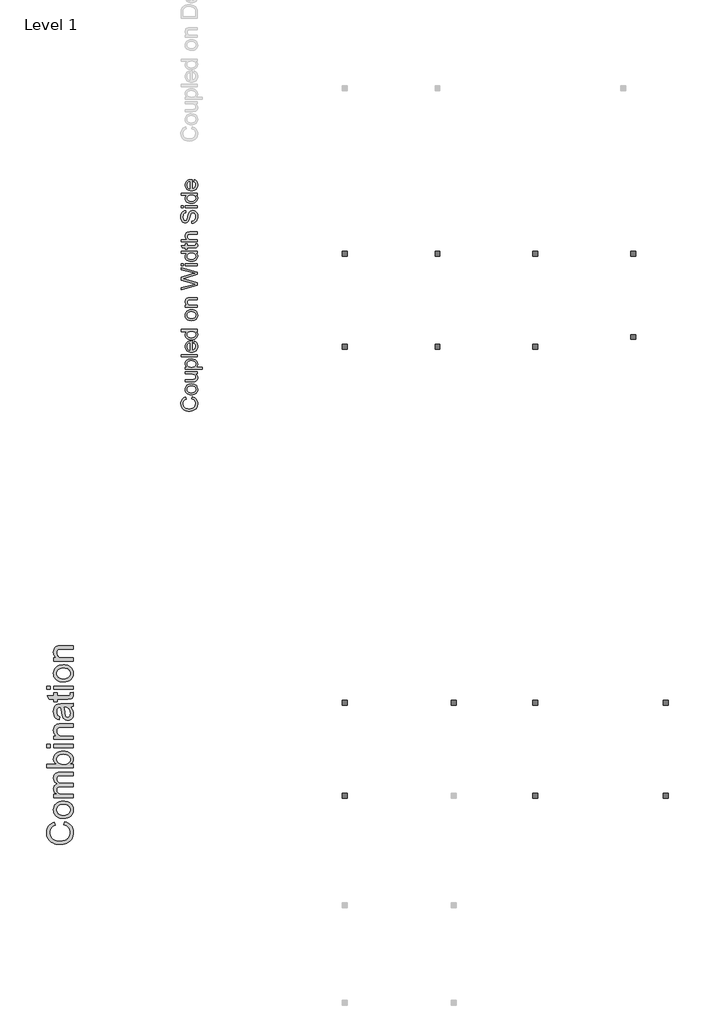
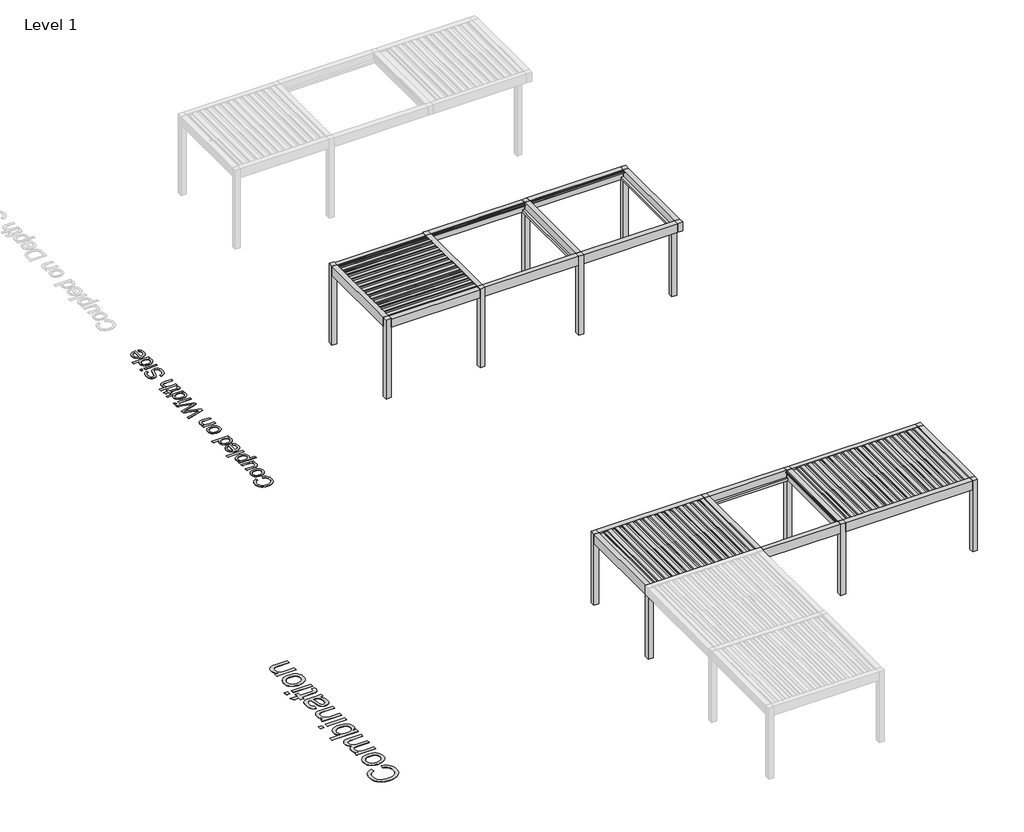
# One storey, part 43 of 80: 4 proxies.
"""IFC4 building model written with IfcOpenShell, lengths in millimetres."""

from ifc_helpers import new_model, si_unit, origin, origin_with_axes, place, context, project, spatial, polyline, outline, extrude, transform, mapped, element, save
from components import generic_models_59356690, generic_models_0d35a46a

model = new_model("IFC4")

# Units and contexts
model_context = context("Model", 3, world=origin())
ifc_project = project(units=[si_unit("LENGTHUNIT", "METRE", prefix="MILLI")], contexts=[model_context])

# Site, building, storey
site = spatial("IfcSite", under=ifc_project)
building = spatial("IfcBuilding", under=site)
storey = spatial("IfcBuildingStorey", under=building, Name="Level 1", Elevation=0.0)

# Proxies
placement = place(None, origin())
generic_models_shape = generic_models_59356690(model_context)
element("IfcBuildingElementProxy", 1, Name="Renson_Amani_Patio_Cover : Renson_Amani_Patio_Cover", ObjectType="Renson_Amani_Patio_Cover : Renson_Amani_Patio_Cover", at=placement, inside=storey, context=model_context, shape_type="MappedRepresentation", body=[
    mapped(generic_models_shape, transform((48903.165057, 33328.5861401, 0.0), x_axis=(1.0, 0.0, 0.0), y_axis=(0.0, 1.0, 0.0), z_axis=(0.0, 0.0, 1.0))),
])
generic_models_2_shape = generic_models_0d35a46a(model_context)
element("IfcBuildingElementProxy", 2, Name="Renson_Amani_Patio_Cover : Renson_Amani_Patio_Cover", ObjectType="Renson_Amani_Patio_Cover : Renson_Amani_Patio_Cover", at=placement, inside=storey, context=model_context, shape_type="MappedRepresentation", body=[
    mapped(generic_models_2_shape, transform((48653.165057, 47104.0136657, 0.0), x_axis=(1.0, 0.0, 0.0), y_axis=(0.0, 1.0, 0.0), z_axis=(0.0, 0.0, 1.0))),
])
element("IfcBuildingElementProxy", 3, Name="500mm Arial", ObjectType="500mm Arial", at=placement, inside=storey, context=model_context, shape_type="SweptSolid", body=[
    extrude(outline(polyline([(42534.4472638, 44082.6564057), (42550.6340716, 44145.4415995), (42589.6793805, 44133.017918), (42623.7966034, 44116.4708924), (42652.9857405, 44095.8005228), (42677.2467916, 44071.0068092), (42696.3191738, 44042.6492387), (42709.942304, 44011.2872986), (42718.116182, 43976.9209889), (42720.8408081, 43939.5503096), (42718.779136, 43901.2637573), (42712.59412, 43866.7250029), (42702.2857599, 43835.9340464), (42687.8540558, 43808.8908876), (42669.5136055, 43785.2238126), (42647.4790069, 43764.5611072), (42621.7502598, 43746.9027714), (42592.3273644, 43732.2488053), (42560.4825792, 43720.7409966), (42527.4881628, 43712.5211333), (42493.3441151, 43707.5892153), (42458.0504362, 43705.9452426), (42420.1815833, 43707.8038131), (42384.8112623, 43713.3795246), (42351.9394732, 43722.6723771), (42321.566216, 43735.6823706), (42294.1934963, 43752.1182651), (42270.3233197, 43771.6888208), (42249.9556863, 43794.3940377), (42233.0905961, 43820.2339158), (42219.8660048, 43848.3309032), (42210.4198682, 43877.807448), (42204.7521862, 43908.6635504), (42202.8629589, 43940.8992102), (42205.3078413, 43976.8098579), (42212.6424886, 44009.7391286), (42224.8669007, 44039.6870222), (42241.9810777, 44066.6535389), (42263.5328312, 44090.1941545), (42289.0699731, 44109.8643449), (42318.5925032, 44125.6641102), (42352.1004216, 44137.5934503), (42367.060956, 44074.8082565), (42342.3707092, 44064.9214278), (42321.2749761, 44053.0419051), (42303.7737566, 44039.1696882), (42289.8670507, 44023.3047771), (42279.2712828, 44005.3552014), (42271.7028772, 43985.2289906), (42267.1618338, 43962.9261447), (42265.6481527, 43938.4466636), (42267.3266143, 43910.2806983), (42272.3619991, 43884.5212945), (42280.7543071, 43861.168452), (42292.5035383, 43840.2221709), (42307.0808624, 43821.9468663), (42323.9574489, 43806.6069536), (42343.1332979, 43794.2024325), (42364.6084094, 43784.7333033), (42410.563002, 43772.7311532), (42457.9278088, 43768.7304365), (42515.9305368, 43773.4669172), (42566.0851154, 43787.6763592), (42587.7403358, 43798.4675644), (42606.4754928, 43811.8952572), (42622.2905865, 43827.9594377), (42635.1856169, 43846.6601058), (42652.3381149, 43888.3380702), (42658.0556142, 43933.2963156), (42656.1089053, 43960.5923933), (42650.2687787, 43985.7041715), (42640.5352342, 44008.6316505), (42626.908272, 44029.3748301), (42609.4492056, 44047.443201), (42588.2193488, 44062.3462539), (42563.2187015, 44074.0839888), (42534.4472638, 44082.6564057)])), origin_with_axes(), (0.0, 0.0, 1.0), 5.0),
    extrude(outline(polyline([(42528.5611519, 44208.2267934), (42480.790142, 44211.6220376), (42439.6256796, 44221.8077704), (42405.0677647, 44238.7839916), (42377.1163972, 44262.5507013), (42359.2511278, 44286.4783594), (42346.4902211, 44312.889221), (42338.8336771, 44341.783286), (42336.2814958, 44373.1605545), (42339.3893322, 44407.7989437), (42348.7128415, 44439.1187306), (42364.2520237, 44467.1199154), (42386.0068788, 44491.802498), (42413.2416427, 44511.9478693), (42445.2205516, 44526.3374203), (42481.9436053, 44534.9711509), (42523.410804, 44537.8490611), (42586.8397913, 44532.7600268), (42612.8751067, 44526.398734), (42635.1243032, 44517.492924), (42654.3423053, 44506.1537279), (42671.2840376, 44492.4922767), (42685.9495001, 44476.5085705), (42698.3386927, 44458.2026091), (42715.2152792, 44417.4750065), (42720.8408081, 44373.1605545), (42717.7444679, 44338.0163277), (42708.4554476, 44306.4053008), (42692.9737469, 44278.327474), (42671.299366, 44253.7828471), (42643.8001869, 44233.8520736), (42610.8440915, 44219.6158068), (42572.4310798, 44211.0740467), (42528.5611519, 44208.2267934)]), holes=[polyline([(42528.4385246, 44271.0119872), (42558.892256, 44272.8284046), (42585.2609644, 44278.2776566), (42607.5446499, 44287.3597434), (42625.7433123, 44300.0746648), (42639.8799444, 44315.541037), (42649.9775387, 44332.8774761), (42656.0360954, 44352.0839819), (42658.0556142, 44373.1605545), (42656.024599, 44394.1298283), (42649.9315535, 44413.259692), (42639.7764776, 44430.5501458), (42625.5593713, 44446.0011896), (42607.1806, 44458.716111), (42584.5405289, 44467.7981978), (42557.639158, 44473.2474499), (42526.4764873, 44475.0638672), (42496.9884461, 44473.2359535), (42471.3095164, 44467.7522126), (42449.4396982, 44458.6126442), (42431.3789915, 44445.8172486), (42417.2423594, 44430.3087232), (42407.1447651, 44413.0297658), (42401.0862085, 44393.9803762), (42399.0666896, 44373.1605545), (42401.0785443, 44352.0839819), (42407.1141083, 44332.8774761), (42417.1733816, 44315.541037), (42431.2563642, 44300.0746648), (42449.4013772, 44287.3597434), (42471.6467416, 44278.2776566), (42497.9924574, 44272.8284046), (42528.4385246, 44271.0119872)])]), origin_with_axes(), (0.0, 0.0, 1.0), 5.0),
    extrude(outline(polyline([(42712.9926588, 44843.926881), (42649.5943283, 44843.926881), (42680.7646632, 44821.2101678), (42703.0291881, 44794.753321), (42716.3879031, 44764.5563406), (42720.8408081, 44730.6192265), (42717.7138111, 44700.0390357), (42708.3328202, 44671.5741663), (42694.2306771, 44647.6924934), (42676.9402233, 44630.8618922), (42655.9402927, 44619.5341924), (42630.7097192, 44612.1612241), (42572.3391093, 44608.4824041), (42344.129645, 44608.4824041), (42344.129645, 44671.267598), (42542.7859224, 44671.267598), (42606.7973896, 44675.0690453), (42628.1498737, 44684.2201099), (42644.3826667, 44699.9010799), (42654.6373773, 44721.0696231), (42658.0556142, 44746.683407), (42654.5607353, 44773.7687189), (42644.0760984, 44799.1065913), (42627.5673939, 44819.9992229), (42606.0003119, 44833.7488125), (42576.4624534, 44841.3823639), (42536.0414192, 44843.926881), (42344.129645, 44843.926881), (42344.129645, 44906.7120749), (42712.9926588, 44906.7120749), (42712.9926588, 44843.926881)])), origin_with_axes(), (0.0, 0.0, 1.0), 5.0),
    extrude(outline(polyline([(42854.259345, 44993.0417164), (42344.129645, 44993.0417164), (42344.129645, 45055.8269103), (42405.6885655, 45055.8269103), (42375.3229725, 45076.3056747), (42353.6332632, 45099.2369857), (42340.6194376, 45125.969744), (42336.2814958, 45157.8528503), (42337.799009, 45179.7494932), (42342.3515487, 45200.3125639), (42349.9391148, 45219.5420623), (42360.5617075, 45237.4379885), (42373.943415, 45253.6094679), (42389.8083261, 45267.6656258), (42428.9877586, 45289.4319772), (42475.2489195, 45302.5837585), (42525.7407233, 45306.9676856), (42579.4361662, 45302.0166071), (42627.460095, 45287.1633716), (42648.735937, 45276.1422401), (42667.3752914, 45262.8831599), (42683.3781582, 45247.3861308), (42696.7445374, 45229.651153), (42714.8167404, 45190.9469014), (42720.8408081, 45150.2499557), (42716.8094345, 45121.3865475), (42704.7153139, 45095.6194794), (42686.4591699, 45073.5618881), (42663.9417261, 45055.8269103), (42854.259345, 45055.8269103), (42854.259345, 44993.0417164)]), holes=[polyline([(42531.5042079, 45055.8269103), (42561.762502, 45057.5245324), (42587.7901531, 45062.6173988), (42609.5871614, 45071.1055094), (42627.1535266, 45082.9888642), (42640.6731899, 45097.2941089), (42650.3300923, 45113.0478889), (42656.1242337, 45130.2502043), (42658.0556142, 45148.901055), (42656.0552559, 45167.8201531), (42650.0541808, 45185.336701), (42640.0523891, 45201.4506988), (42626.0498806, 45216.1621465), (42607.8473861, 45228.4210476), (42585.245636, 45237.1774055), (42558.2446304, 45242.4312202), (42526.8443693, 45244.1824918), (42496.8466583, 45242.4733734), (42470.8649923, 45237.346018), (42448.8993715, 45228.8004259), (42430.9497959, 45216.8365968), (42417.0009369, 45202.4968632), (42407.0374662, 45186.8235574), (42401.0593838, 45169.8166793), (42399.0666896, 45151.476229), (42401.1858432, 45133.1932603), (42407.5433039, 45115.9909449), (42418.1390718, 45099.8692829), (42432.9731468, 45084.8282742), (42451.8462596, 45072.1401775), (42474.5591407, 45063.0772512), (42501.1117901, 45057.6394955), (42531.5042079, 45055.8269103)])]), origin_with_axes(), (0.0, 0.0, 1.0), 5.0),
    extrude(outline(polyline([(42712.9926588, 45377.6010287), (42210.7111081, 45377.6010287), (42210.7111081, 45440.3862226), (42712.9926588, 45440.3862226), (42712.9926588, 45377.6010287)])), origin_with_axes(), (0.0, 0.0, 1.0), 5.0),
    extrude(outline(polyline([(42603.1185696, 45792.8171739), (42610.9667188, 45854.3760945), (42635.6224767, 45844.937622), (42657.3505071, 45832.1958758), (42676.1508099, 45816.1508559), (42692.0233851, 45796.8025622), (42704.6310077, 45774.3502642), (42713.6364523, 45748.9932313), (42719.0397191, 45720.7314634), (42720.8408081, 45689.5649606), (42717.7329716, 45650.6077902), (42708.4094623, 45615.8965911), (42692.8702801, 45585.4313634), (42671.115425, 45559.212107), (42643.7503696, 45538.1278701), (42611.3805861, 45523.067701), (42574.0060746, 45514.0315995), (42531.6268352, 45511.0195656), (42487.8105567, 45514.0622563), (42449.1906115, 45523.1903283), (42415.7669994, 45538.4037816), (42387.5397204, 45559.7026163), (42365.1142471, 45585.8528948), (42349.0960519, 45615.6206796), (42339.4851348, 45649.0059706), (42336.2814958, 45686.008768), (42339.4774706, 45721.819781), (42349.0653951, 45754.2048929), (42365.0452693, 45783.1641037), (42387.4170931, 45808.6974134), (42415.5830584, 45829.5402277), (42448.9453568, 45844.4279522), (42487.5039884, 45853.3605869), (42531.2589532, 45856.3381318), (42548.181525, 45855.9702498), (42548.181525, 45573.8047595), (42573.2358217, 45577.4414263), (42595.1784499, 45584.6726067), (42614.0094095, 45595.4983009), (42629.7287006, 45609.9185087), (42642.1217253, 45627.1361525), (42650.9738858, 45646.3541546), (42656.2851821, 45667.5725151), (42658.0556142, 45690.7912339), (42654.7753331, 45724.2071818), (42644.9344897, 45752.3501545), (42627.9199474, 45775.2201518), (42603.1185696, 45792.8171739)]), holes=[polyline([(42485.3963312, 45573.8047595), (42485.3963312, 45793.5529379), (42452.2256379, 45785.0609952), (42428.4972492, 45768.4143349), (42415.6213794, 45751.2924937), (42406.4243295, 45731.8100764), (42400.9060996, 45709.9670829), (42399.0666896, 45685.7635133), (42404.9374731, 45643.4417555), (42412.2759525, 45625.0284952), (42422.5498236, 45608.4469807), (42435.2839056, 45594.5326106), (42450.0030175, 45584.1207838), (42466.7071594, 45577.2115), (42485.3963312, 45573.8047595)])]), origin_with_axes(), (0.0, 0.0, 1.0), 5.0),
    extrude(outline(polyline([(42712.9926588, 46146.7196533), (42653.7636576, 46146.7196533), (42683.1099109, 46127.9346789), (42704.0715205, 46105.1796447), (42716.6484862, 46078.4545506), (42720.8408081, 46047.7593966), (42714.7707551, 46007.1697498), (42696.5605964, 45970.0136683), (42667.4825903, 45938.5597577), (42628.8089956, 45915.0766237), (42582.1033106, 45900.4533144), (42528.9290339, 45895.5788779), (42476.4138791, 45900.0701039), (42428.9877586, 45913.543782), (42407.8575365, 45923.6452085), (42389.3484736, 45935.9845837), (42373.4605699, 45950.5619078), (42360.1938255, 45967.3771806), (42342.2595782, 46005.3456682), (42336.2814958, 46047.5141419), (42340.558124, 46078.2322885), (42353.3880085, 46105.3942425), (42373.0543669, 46128.417524), (42397.8404163, 46146.7196533), (42210.7111081, 46146.7196533), (42210.7111081, 46209.5048471), (42712.9926588, 46209.5048471), (42712.9926588, 46146.7196533)]), holes=[polyline([(42528.6837793, 45958.3640718), (42559.1298465, 45960.1345039), (42585.4755623, 45965.4458002), (42607.7209267, 45974.2979607), (42625.8659396, 45986.6909854), (42639.9489223, 46001.4905715), (42650.0081956, 46017.5624162), (42656.0437596, 46034.9065194), (42658.0556142, 46053.5228812), (42656.1357301, 46072.2273814), (42650.3760776, 46089.4680178), (42640.7766568, 46105.2447904), (42627.3374676, 46119.5576993), (42609.9512112, 46131.4410542), (42588.5105887, 46139.9291648), (42563.0156, 46145.0220312), (42533.4662452, 46146.7196533), (42501.069637, 46144.9913743), (42473.2868821, 46139.8065375), (42450.1179807, 46131.1651427), (42431.5629325, 46119.06719), (42417.3458263, 46104.4400486), (42407.1907503, 46088.2110876), (42401.0977048, 46070.3803072), (42399.0666896, 46050.9477072), (42401.0172306, 46031.9634634), (42406.8688536, 46014.6193602), (42416.6215586, 45998.9153975), (42430.2753455, 45984.8515754), (42448.1291186, 45973.2632926), (42470.4817819, 45964.9859477), (42497.3333355, 45960.0195407), (42528.6837793, 45958.3640718)])]), origin_with_axes(), (0.0, 0.0, 1.0), 5.0),
    extrude(outline(polyline([(42528.5611519, 46484.1900702), (42480.790142, 46487.5853144), (42439.6256796, 46497.7710472), (42405.0677647, 46514.7472684), (42377.1163972, 46538.5139782), (42359.2511278, 46562.4416363), (42346.4902211, 46588.8524978), (42338.8336771, 46617.7465629), (42336.2814958, 46649.1238314), (42339.3893322, 46683.7622205), (42348.7128415, 46715.0820074), (42364.2520237, 46743.0831922), (42386.0068788, 46767.7657748), (42413.2416427, 46787.9111462), (42445.2205516, 46802.3006971), (42481.9436053, 46810.9344277), (42523.410804, 46813.8123379), (42586.8397913, 46808.7233036), (42612.8751067, 46802.3620108), (42635.1243032, 46793.4562008), (42654.3423053, 46782.1170047), (42671.2840376, 46768.4555536), (42685.9495001, 46752.4718473), (42698.3386927, 46734.1658859), (42715.2152792, 46693.4382834), (42720.8408081, 46649.1238314), (42717.7444679, 46613.9796045), (42708.4554476, 46582.3685777), (42692.9737469, 46554.2907508), (42671.299366, 46529.7461239), (42643.8001869, 46509.8153504), (42610.8440915, 46495.5790836), (42572.4310798, 46487.0373236), (42528.5611519, 46484.1900702)]), holes=[polyline([(42528.4385246, 46546.975264), (42558.892256, 46548.7916814), (42585.2609644, 46554.2409334), (42607.5446499, 46563.3230202), (42625.7433123, 46576.0379417), (42639.8799444, 46591.5043139), (42649.9775387, 46608.8407529), (42656.0360954, 46628.0472587), (42658.0556142, 46649.1238314), (42656.024599, 46670.0931051), (42649.9315535, 46689.2229688), (42639.7764776, 46706.5134226), (42625.5593713, 46721.9644664), (42607.1806, 46734.6793879), (42584.5405289, 46743.7614746), (42557.639158, 46749.2107267), (42526.4764873, 46751.027144), (42496.9884461, 46749.1992304), (42471.3095164, 46743.7154894), (42449.4396982, 46734.5759211), (42431.3789915, 46721.7805254), (42417.2423594, 46706.2720001), (42407.1447651, 46688.9930426), (42401.0862085, 46669.943653), (42399.0666896, 46649.1238314), (42401.0785443, 46628.0472587), (42407.1141083, 46608.8407529), (42417.1733816, 46591.5043139), (42431.2563642, 46576.0379417), (42449.4013772, 46563.3230202), (42471.6467416, 46554.2409334), (42497.9924574, 46548.7916814), (42528.4385246, 46546.975264)])]), origin_with_axes(), (0.0, 0.0, 1.0), 5.0),
    extrude(outline(polyline([(42712.9926588, 46884.445681), (42344.129645, 46884.445681), (42344.129645, 46947.2308748), (42395.6331243, 46947.2308748), (42369.6667868, 46969.0432114), (42351.1194029, 46995.2394752), (42339.9909726, 47025.819666), (42336.2814958, 47060.783784), (42339.270537, 47091.7318568), (42348.2376606, 47120.0740989), (42362.0638923, 47143.7105171), (42379.6302575, 47160.5411183), (42400.8907712, 47171.9607886), (42425.7994479, 47179.3644138), (42486.4999771, 47182.6753517), (42712.9926588, 47182.6753517), (42712.9926588, 47119.8901579), (42494.961263, 47119.8901579), (42462.495677, 47118.0814047), (42439.4110818, 47112.6551453), (42422.8717204, 47102.6456893), (42410.0418358, 47087.0873466), (42401.8104762, 47067.1450768), (42399.0666896, 47043.9838395), (42400.6071955, 47024.9191215), (42405.228713, 47007.2109684), (42412.9312423, 46990.8593802), (42423.7147833, 46975.8643568), (42438.8056093, 46963.3372084), (42459.4299937, 46954.3892453), (42485.5879364, 46949.0204674), (42517.2794374, 46947.2308748), (42712.9926588, 46947.2308748), (42712.9926588, 46884.445681)])), origin_with_axes(), (0.0, 0.0, 1.0), 5.0),
    extrude(outline(polyline([(42712.9926588, 47562.9427074), (42210.7111081, 47425.9679779), (42210.7111081, 47490.715209), (42540.8238851, 47570.17772), (42642.7271978, 47594.7031863), (42552.5961089, 47620.9454353), (42210.7111081, 47720.5188287), (42210.7111081, 47813.8382281), (42458.5409455, 47886.1883538), (42550.5114443, 47917.1824119), (42642.7271978, 47940.0217524), (42543.7669411, 47963.8114548), (42210.7111081, 48044.0097297), (42210.7111081, 48108.7569609), (42712.9926588, 47971.659604), (42712.9926588, 47904.5824536), (42325.4902906, 47784.1624138), (42271.4116373, 47767.3624694), (42336.5267504, 47748.4778603), (42712.9926588, 47638.7263984), (42712.9926588, 47562.9427074)])), origin_with_axes(), (0.0, 0.0, 1.0), 5.0),
    extrude(outline(polyline([(42712.9926588, 48163.6940055), (42344.129645, 48163.6940055), (42344.129645, 48226.4791994), (42712.9926588, 48226.4791994), (42712.9926588, 48163.6940055)])), origin_with_axes(), (0.0, 0.0, 1.0), 5.0),
    extrude(outline(polyline([(42273.4963019, 48163.6940055), (42210.7111081, 48163.6940055), (42210.7111081, 48226.4791994), (42273.4963019, 48226.4791994), (42273.4963019, 48163.6940055)])), origin_with_axes(), (0.0, 0.0, 1.0), 5.0),
    extrude(outline(polyline([(42712.9926588, 48548.2533178), (42653.7636576, 48548.2533178), (42683.1099109, 48529.4683434), (42704.0715205, 48506.7133092), (42716.6484862, 48479.9882151), (42720.8408081, 48449.2930611), (42714.7707551, 48408.7034143), (42696.5605964, 48371.5473328), (42667.4825903, 48340.0934222), (42628.8089956, 48316.6102882), (42582.1033106, 48301.9869789), (42528.9290339, 48297.1125424), (42476.4138791, 48301.6037685), (42428.9877586, 48315.0774465), (42407.8575365, 48325.178873), (42389.3484736, 48337.5182482), (42373.4605699, 48352.0955723), (42360.1938255, 48368.9108452), (42342.2595782, 48406.8793327), (42336.2814958, 48449.0478064), (42340.558124, 48479.765953), (42353.3880085, 48506.927907), (42373.0543669, 48529.9511885), (42397.8404163, 48548.2533178), (42210.7111081, 48548.2533178), (42210.7111081, 48611.0385116), (42712.9926588, 48611.0385116), (42712.9926588, 48548.2533178)]), holes=[polyline([(42528.6837793, 48359.8977363), (42559.1298465, 48361.6681684), (42585.4755623, 48366.9794647), (42607.7209267, 48375.8316252), (42625.8659396, 48388.2246499), (42639.9489223, 48403.024236), (42650.0081956, 48419.0960807), (42656.0437596, 48436.4401839), (42658.0556142, 48455.0565457), (42656.1357301, 48473.7610459), (42650.3760776, 48491.0016823), (42640.7766568, 48506.778455), (42627.3374676, 48521.0913638), (42609.9512112, 48532.9747187), (42588.5105887, 48541.4628293), (42563.0156, 48546.5556957), (42533.4662452, 48548.2533178), (42501.069637, 48546.5250388), (42473.2868821, 48541.340202), (42450.1179807, 48532.6988072), (42431.5629325, 48520.6008545), (42417.3458263, 48505.9737131), (42407.1907503, 48489.7447522), (42401.0977048, 48471.9139717), (42399.0666896, 48452.4813717), (42401.0172306, 48433.4971279), (42406.8688536, 48416.1530247), (42416.6215586, 48400.449062), (42430.2753455, 48386.3852399), (42448.1291186, 48374.7969571), (42470.4817819, 48366.5196122), (42497.3333355, 48361.5532053), (42528.6837793, 48359.8977363)])]), origin_with_axes(), (0.0, 0.0, 1.0), 5.0),
    extrude(outline(polyline([(42660.6307882, 48838.6348393), (42714.8320688, 48846.4829886), (42720.8408081, 48799.5167205), (42718.2349773, 48769.3810537), (42710.4174849, 48746.9095952), (42698.3693495, 48731.0293557), (42683.0715899, 48720.6673462), (42656.7986841, 48714.9651753), (42611.8251102, 48713.0644516), (42406.9148388, 48713.0644516), (42406.9148388, 48665.9755563), (42344.129645, 48665.9755563), (42344.129645, 48713.0644516), (42254.4890655, 48713.0644516), (42217.5782387, 48775.8496455), (42344.129645, 48775.8496455), (42344.129645, 48838.6348393), (42406.9148388, 48838.6348393), (42406.9148388, 48775.8496455), (42609.9857002, 48775.8496455), (42642.3593158, 48779.1605834), (42653.8249713, 48789.890475), (42658.0556142, 48811.2889444), (42660.6307882, 48838.6348393)])), origin_with_axes(), (0.0, 0.0, 1.0), 5.0),
    extrude(outline(polyline([(42712.9926588, 48901.4200332), (42210.7111081, 48901.4200332), (42210.7111081, 48964.205227), (42395.3878697, 48964.205227), (42369.5288311, 48987.2668296), (42351.0580892, 49013.1641892), (42339.9756441, 49041.8973059), (42336.2814958, 49073.4661796), (42340.3128693, 49111.3886819), (42352.4069899, 49143.9768953), (42371.6134957, 49169.6366645), (42396.982025, 49186.7738341), (42431.838844, 49196.4307365), (42479.5102192, 49199.6497039), (42712.9926588, 49199.6497039), (42712.9926588, 49136.8645101), (42486.0094678, 49136.8645101), (42446.707408, 49131.8674463), (42431.7008883, 49125.6211166), (42419.7907087, 49116.876255), (42410.7239503, 49105.8397952), (42404.2476944, 49092.7186707), (42399.0666896, 49060.2224278), (42402.5615686, 49033.6889389), (42413.0462054, 49008.7802621), (42429.5089247, 48988.1482135), (42450.9380509, 48974.4446092), (42479.4182487, 48966.7650726), (42517.0341827, 48964.205227), (42712.9926588, 48964.205227), (42712.9926588, 48901.4200332)])), origin_with_axes(), (0.0, 0.0, 1.0), 5.0),
    extrude(outline(polyline([(42540.3333758, 49466.4867778), (42540.3333758, 49529.2719716), (42575.1748664, 49536.4763273), (42603.1798833, 49549.5054813), (42625.4060871, 49569.8309616), (42642.9111388, 49598.924296), (42654.2694954, 49634.4862222), (42658.0556142, 49674.2174777), (42655.1892003, 49709.1969241), (42646.5899587, 49739.8231002), (42632.9783249, 49764.6398064), (42615.0747345, 49782.1908433), (42594.519328, 49792.6294949), (42572.952246, 49796.1090454), (42551.936987, 49793.5032146), (42533.7728135, 49785.6857222), (42518.2757845, 49769.8054828), (42505.2619589, 49743.0114108), (42481.2883155, 49651.592735), (42465.4234045, 49591.5819845), (42450.3249143, 49553.1843013), (42429.2023564, 49521.9296601), (42403.6039009, 49499.7800983), (42374.0813708, 49486.5823318), (42341.186589, 49482.1830762), (42304.4137179, 49487.6246641), (42270.1240503, 49503.9494276), (42254.5963644, 49516.0857013), (42241.0613727, 49530.7281712), (42219.9694716, 49567.5316991), (42207.139587, 49611.7081954), (42202.8629589, 49660.6058439), (42207.3388565, 49713.5808512), (42220.7665493, 49759.9339826), (42242.8701258, 49798.0097691), (42257.0719037, 49813.3228571), (42273.3736746, 49826.1527417), (42310.3764719, 49843.9643617), (42351.9777942, 49851.0460901), (42351.9777942, 49788.2608962), (42331.9435539, 49784.0609101), (42314.5151444, 49776.733927), (42299.6925657, 49766.279947), (42287.4758177, 49752.69897), (42277.9262143, 49735.7380772), (42271.105069, 49715.1443497), (42265.6481527, 49663.0583905), (42271.0437553, 49609.7461581), (42277.7882585, 49589.3670284), (42287.2305631, 49573.1725564), (42298.5812555, 49560.8331811), (42311.0509223, 49552.0193416), (42324.6395635, 49546.731038), (42339.3471791, 49544.9682701), (42363.4741066, 49549.9653338), (42382.8798818, 49564.9565251), (42391.5097803, 49578.7214431), (42400.2316493, 49600.395824), (42417.9512987, 49667.4729745), (42434.7819, 49736.6961032), (42449.466523, 49778.573337), (42472.2445498, 49814.3651895), (42500.3568656, 49839.3351799), (42533.496902, 49854.0044744), (42571.3580907, 49858.8942393), (42610.0623423, 49853.2687104), (42646.4673314, 49836.3921239), (42677.7986146, 49808.9542584), (42701.2817487, 49771.6448928), (42715.9510432, 49726.7786178), (42720.8408081, 49676.6700243), (42715.5678328, 49615.1570891), (42708.9766137, 49588.4818123), (42699.748907, 49564.5273295), (42687.8693842, 49543.1480206), (42673.322717, 49524.1982658), (42656.1089053, 49507.6780649), (42636.2279492, 49493.5874181), (42614.323642, 49482.2367257), (42591.0397774, 49473.9363882), (42566.3763553, 49468.6864055), (42540.3333758, 49466.4867778)])), origin_with_axes(), (0.0, 0.0, 1.0), 5.0),
    extrude(outline(polyline([(42712.9926588, 49945.2238808), (42344.129645, 49945.2238808), (42344.129645, 50008.0090747), (42712.9926588, 50008.0090747), (42712.9926588, 49945.2238808)])), origin_with_axes(), (0.0, 0.0, 1.0), 5.0),
    extrude(outline(polyline([(42273.4963019, 49945.2238808), (42210.7111081, 49945.2238808), (42210.7111081, 50008.0090747), (42273.4963019, 50008.0090747), (42273.4963019, 49945.2238808)])), origin_with_axes(), (0.0, 0.0, 1.0), 5.0),
    extrude(outline(polyline([(42712.9926588, 50329.7831931), (42653.7636576, 50329.7831931), (42683.1099109, 50310.9982187), (42704.0715205, 50288.2431845), (42716.6484862, 50261.5180904), (42720.8408081, 50230.8229364), (42714.7707551, 50190.2332896), (42696.5605964, 50153.0772081), (42667.4825903, 50121.6232975), (42628.8089956, 50098.1401635), (42582.1033106, 50083.5168542), (42528.9290339, 50078.6424177), (42476.4138791, 50083.1336438), (42428.9877586, 50096.6073218), (42407.8575365, 50106.7087483), (42389.3484736, 50119.0481235), (42373.4605699, 50133.6254476), (42360.1938255, 50150.4407205), (42342.2595782, 50188.4092081), (42336.2814958, 50230.5776817), (42340.558124, 50261.2958283), (42353.3880085, 50288.4577823), (42373.0543669, 50311.4810639), (42397.8404163, 50329.7831931), (42210.7111081, 50329.7831931), (42210.7111081, 50392.568387), (42712.9926588, 50392.568387), (42712.9926588, 50329.7831931)]), holes=[polyline([(42528.6837793, 50141.4276116), (42559.1298465, 50143.1980437), (42585.4755623, 50148.50934), (42607.7209267, 50157.3615005), (42625.8659396, 50169.7545252), (42639.9489223, 50184.5541113), (42650.0081956, 50200.625956), (42656.0437596, 50217.9700592), (42658.0556142, 50236.586421), (42656.1357301, 50255.2909212), (42650.3760776, 50272.5315576), (42640.7766568, 50288.3083303), (42627.3374676, 50302.6212391), (42609.9512112, 50314.504594), (42588.5105887, 50322.9927046), (42563.0156, 50328.085571), (42533.4662452, 50329.7831931), (42501.069637, 50328.0549142), (42473.2868821, 50322.8700773), (42450.1179807, 50314.2286825), (42431.5629325, 50302.1307298), (42417.3458263, 50287.5035884), (42407.1907503, 50271.2746275), (42401.0977048, 50253.443847), (42399.0666896, 50234.011247), (42401.0172306, 50215.0270032), (42406.8688536, 50197.6829), (42416.6215586, 50181.9789373), (42430.2753455, 50167.9151152), (42448.1291186, 50156.3268324), (42470.4817819, 50148.0494875), (42497.3333355, 50143.0830806), (42528.6837793, 50141.4276116)])]), origin_with_axes(), (0.0, 0.0, 1.0), 5.0),
    extrude(outline(polyline([(42603.1185696, 50744.9993383), (42610.9667188, 50806.5582589), (42635.6224767, 50797.1197864), (42657.3505071, 50784.3780402), (42676.1508099, 50768.3330203), (42692.0233851, 50748.9847266), (42704.6310077, 50726.5324286), (42713.6364523, 50701.1753957), (42719.0397191, 50672.9136278), (42720.8408081, 50641.747125), (42717.7329716, 50602.7899546), (42708.4094623, 50568.0787555), (42692.8702801, 50537.6135278), (42671.115425, 50511.3942714), (42643.7503696, 50490.3100346), (42611.3805861, 50475.2498654), (42574.0060746, 50466.2137639), (42531.6268352, 50463.20173), (42487.8105567, 50466.2444207), (42449.1906115, 50475.3724927), (42415.7669994, 50490.585946), (42387.5397204, 50511.8847807), (42365.1142471, 50538.0350592), (42349.0960519, 50567.802844), (42339.4851348, 50601.1881351), (42336.2814958, 50638.1909324), (42339.4774706, 50674.0019454), (42349.0653951, 50706.3870573), (42365.0452693, 50735.3462681), (42387.4170931, 50760.8795778), (42415.5830584, 50781.7223921), (42448.9453568, 50796.6101166), (42487.5039884, 50805.5427513), (42531.2589532, 50808.5202962), (42548.181525, 50808.1524142), (42548.181525, 50525.9869239), (42573.2358217, 50529.6235907), (42595.1784499, 50536.8547711), (42614.0094095, 50547.6804653), (42629.7287006, 50562.1006731), (42642.1217253, 50579.3183169), (42650.9738858, 50598.536319), (42656.2851821, 50619.7546795), (42658.0556142, 50642.9733983), (42654.7753331, 50676.3893462), (42644.9344897, 50704.5323189), (42627.9199474, 50727.4023162), (42603.1185696, 50744.9993383)]), holes=[polyline([(42485.3963312, 50525.9869239), (42485.3963312, 50745.7351023), (42452.2256379, 50737.2431596), (42428.4972492, 50720.5964993), (42415.6213794, 50703.4746581), (42406.4243295, 50683.9922408), (42400.9060996, 50662.1492473), (42399.0666896, 50637.9456777), (42404.9374731, 50595.6239199), (42412.2759525, 50577.2106596), (42422.5498236, 50560.6291451), (42435.2839056, 50546.714775), (42450.0030175, 50536.3029482), (42466.7071594, 50529.3936644), (42485.3963312, 50525.9869239)])]), origin_with_axes(), (0.0, 0.0, 1.0), 5.0),
])
element("IfcBuildingElementProxy", 4, Name="800mm Arial", ObjectType="800mm Arial", at=placement, inside=storey, context=model_context, shape_type="SweptSolid", body=[
    extrude(outline(polyline([(38612.8640791, 31012.1037199), (38638.625629, 31112.0273072), (38700.7668296, 31092.2548297), (38755.0649068, 31065.9199878), (38801.5198607, 31033.0227814), (38840.1316912, 30993.5632105), (38870.4856765, 30948.4317075), (38892.1670945, 30898.5187046), (38905.1759453, 30843.824202), (38909.5122289, 30784.3481996), (38906.2310466, 30723.4145716), (38896.3874999, 30668.4456207), (38879.9815886, 30619.4413468), (38857.0133129, 30576.4017499), (38827.8242084, 30538.7352414), (38792.7558107, 30505.8502327), (38751.80812, 30477.7467238), (38704.9811361, 30454.4247146), (38654.299678, 30436.1098628), (38601.7885643, 30423.0278257), (38547.4477951, 30415.1786035), (38491.2773704, 30412.5621961), (38431.0085172, 30415.5201392), (38374.7161154, 30424.3939685), (38322.400165, 30439.1836841), (38274.0606659, 30459.8892858), (38230.4965678, 30486.047261), (38192.5068202, 30517.194097), (38160.091423, 30553.3297937), (38133.2503764, 30594.4543511), (38112.203239, 30639.1711322), (38097.1695694, 30686.0835), (38088.1493676, 30735.1914544), (38085.1426337, 30786.4949954), (38089.0337011, 30843.6473353), (38100.7069034, 30896.0547685), (38120.1622405, 30943.717295), (38147.3997125, 30986.6349149), (38181.6996548, 31024.1001613), (38222.342403, 31055.4055674), (38269.327957, 31080.5511332), (38322.6563168, 31099.5368587), (38346.4662341, 30999.6132715), (38307.1713322, 30983.8782339), (38273.5971532, 30964.9717934), (38245.7436972, 30942.8939501), (38223.6109642, 30917.6447038), (38206.747639, 30889.0776821), (38194.7024068, 30857.0465126), (38187.4752675, 30821.5511954), (38185.066221, 30782.5917303), (38187.7375181, 30737.7651698), (38195.7514093, 30696.7686883), (38209.1078947, 30659.6022856), (38227.8069742, 30626.2659619), (38251.0070063, 30597.1805378), (38277.8663494, 30572.7668342), (38308.3850037, 30553.0248511), (38342.562969, 30537.9545884), (38378.8511369, 30526.8119862), (38415.7003993, 30518.8529846), (38453.110756, 30514.0775837), (38491.0822071, 30512.4857834), (38538.7996233, 30514.3703286), (38583.3944274, 30520.0239642), (38624.8666194, 30529.4466902), (38663.2161993, 30542.6385065), (38697.6808106, 30559.8128731), (38727.4980969, 30581.1832497), (38752.6680581, 30606.7496363), (38773.1906943, 30636.5120329), (38789.1147962, 30669.0250116), (38800.4891548, 30702.8431446), (38807.3137699, 30737.966432), (38809.5886416, 30774.3948735), (38806.4904249, 30817.8369946), (38797.1957748, 30857.8027703), (38781.7046913, 30894.2922004), (38760.0171745, 30927.3052849), (38732.2308058, 30956.061371), (38698.4431671, 30979.7798055), (38658.6542581, 30998.4605885), (38612.8640791, 31012.1037199)])), origin_with_axes(), (0.0, 0.0, 1.0), 5.0),
    extrude(outline(polyline([(38603.4962428, 31211.9508945), (38527.4679567, 31217.3544771), (38493.3967213, 31224.1089554), (38461.9540911, 31233.5652251), (38433.1400659, 31245.7232861), (38406.9546459, 31260.5831384), (38383.3978309, 31278.1447821), (38362.4696211, 31298.4082171), (38334.0367742, 31336.4894475), (38313.7275978, 31378.5227338), (38301.542092, 31424.5080761), (38297.4802567, 31474.4454744), (38302.4264255, 31529.5729954), (38317.2649318, 31579.4189109), (38341.9957757, 31623.9832207), (38376.6189572, 31663.265925), (38419.9634967, 31695.3275887), (38470.8584146, 31718.228777), (38529.3037111, 31731.9694901), (38595.299386, 31736.5497277), (38648.786316, 31734.524909), (38696.2475804, 31728.4504526), (38737.6831793, 31718.3263587), (38773.0931126, 31704.1526272), (38803.6788542, 31686.1061248), (38830.6418779, 31664.3637183), (38853.9821836, 31638.9254076), (38873.6997713, 31609.7911927), (38889.3677215, 31578.0954601), (38900.5591145, 31544.9725961), (38907.2739503, 31510.4226009), (38909.5122289, 31474.4454744), (38904.5843567, 31418.5129048), (38889.80074, 31368.2034766), (38865.1613789, 31323.5171898), (38830.6662733, 31284.4540442), (38786.900913, 31252.7339162), (38734.4507879, 31230.0766819), (38673.3158978, 31216.4823413), (38603.4962428, 31211.9508945)]), holes=[polyline([(38603.3010795, 31311.8744817), (38651.7686545, 31314.7653375), (38693.7348535, 31323.4379047), (38729.1996765, 31337.8921834), (38758.1631235, 31358.1281735), (38780.6617877, 31382.7431392), (38796.7322621, 31410.3343446), (38806.3745467, 31440.9017897), (38809.5886416, 31474.4454744), (38806.3562502, 31507.8183912), (38796.6590759, 31538.2638592), (38780.4971187, 31565.7818784), (38757.8703786, 31590.3724487), (38728.6202856, 31610.6084388), (38692.5882694, 31625.0627175), (38649.77433, 31633.7352847), (38600.1784674, 31636.6261404), (38553.2478031, 31633.7169882), (38512.3793975, 31624.9895313), (38477.5732504, 31610.4437698), (38448.8293621, 31590.0797038), (38426.3306979, 31565.3976507), (38410.2602235, 31537.8979281), (38400.6179389, 31507.580536), (38397.403844, 31474.4454744), (38400.6057412, 31440.9017897), (38410.2114327, 31410.3343446), (38426.2209186, 31382.7431392), (38448.6341988, 31358.1281735), (38477.5122619, 31337.8921834), (38512.9160964, 31323.4379047), (38554.8457023, 31314.7653375), (38603.3010795, 31311.8744817)])]), origin_with_axes(), (0.0, 0.0, 1.0), 5.0),
    extrude(outline(polyline([(38897.0217805, 31848.9637634), (38309.9707051, 31848.9637634), (38309.9707051, 31948.8873507), (38406.5765171, 31948.8873507), (38362.2012716, 31978.9424922), (38343.6180703, 31997.1902567), (38327.4378166, 32017.584817), (38314.3313841, 32039.7968351), (38304.9696467, 32063.4969731), (38299.3526042, 32088.6852309), (38297.4802567, 32115.3616085), (38299.3891973, 32144.5263176), (38305.1160191, 32170.9343457), (38314.6607221, 32194.5856929), (38328.0233063, 32215.480359), (38344.825643, 32233.5573556), (38364.6896032, 32248.7556942), (38387.6151869, 32261.0753748), (38413.6023943, 32270.5163973), (38362.7989591, 32306.9387401), (38342.8404667, 32327.0710497), (38326.5107911, 32348.4841183), (38313.8099323, 32371.1779457), (38304.7378903, 32395.152532), (38299.2946651, 32420.4078771), (38297.4802567, 32446.9439811), (38300.4991883, 32486.9463499), (38309.5559832, 32522.0574395), (38324.6506413, 32552.27725), (38345.7831627, 32577.6057813), (38373.1975014, 32597.6283117), (38407.1376114, 32611.9301191), (38447.6034929, 32620.5112035), (38494.5951457, 32623.371565), (38897.0217805, 32623.371565), (38897.0217805, 32523.4479777), (38537.5310621, 32523.4479777), (38487.6912455, 32521.130414), (38454.09877, 32514.177723), (38431.0939012, 32501.1505756), (38413.0169045, 32480.6096429), (38401.3071091, 32454.189417), (38397.403844, 32423.5243904), (38399.9043732, 32395.2074216), (38407.4059609, 32369.3909821), (38419.908607, 32346.0750718), (38437.4123116, 32325.2596908), (38460.4293781, 32308.1402139), (38489.4721102, 32295.9120161), (38524.5405079, 32288.5750974), (38565.6345711, 32286.1294579), (38897.0217805, 32286.1294579), (38897.0217805, 32186.2058706), (38526.4067565, 32186.2058706), (38496.1320564, 32184.7604427), (38469.9069938, 32180.4241591), (38447.7315688, 32173.1970197), (38429.6057813, 32163.0790247), (38415.5174337, 32149.6676496), (38405.4543283, 32132.5603704), (38399.4164651, 32111.7571871), (38397.403844, 32087.2580995), (38402.7708336, 32048.7621472), (38418.8718022, 32013.2912254), (38430.8499471, 31997.4830016), (38445.3164235, 31984.0167369), (38462.2712314, 31972.8924313), (38481.7143708, 31964.1100847), (38532.2128634, 31952.6930342), (38600.9591205, 31948.8873507), (38897.0217805, 31948.8873507), (38897.0217805, 31848.9637634)])), origin_with_axes(), (0.0, 0.0, 1.0), 5.0),
    extrude(outline(polyline([(38897.0217805, 32873.1805332), (38897.0217805, 32773.2569459), (38097.6330821, 32773.2569459), (38097.6330821, 32873.1805332), (38394.0860687, 32873.1805332), (38351.8210259, 32906.0411465), (38321.6317097, 32943.1465606), (38311.065449, 32963.291068), (38303.51812, 32984.4967756), (38297.4802567, 33030.0917914), (38302.9204325, 33081.5661002), (38319.2409598, 33130.2105419), (38345.4172316, 33173.24404), (38380.4246407, 33207.885518), (38423.9216515, 33235.037606), (38475.5667282, 33255.6029342), (38533.2130751, 33268.5568953), (38594.7138963, 33272.8748824), (38665.6801354, 33268.404424), (38728.107982, 33254.993049), (38781.9974362, 33232.6407573), (38827.3484979, 33201.3475489), (38863.2951302, 33163.7847209), (38888.9712961, 33122.6235703), (38904.3769957, 33077.8640972), (38909.5122289, 33029.5063016), (38907.8563906, 33005.2908107), (38902.8888759, 32982.4109683), (38894.6096846, 32960.8667744), (38883.0188168, 32940.6582291), (38868.1162725, 32921.7853323), (38849.9020517, 32904.2480841), (38803.5385806, 32873.1805332), (38897.0217805, 32873.1805332)]), holes=[polyline([(38599.3978144, 32873.1805332), (38644.4317358, 32874.8882117), (38682.7325249, 32880.0112472), (38714.3001816, 32888.5496396), (38739.134706, 32900.5033891), (38769.9583028, 32924.7158306), (38791.9751577, 32952.8559326), (38805.1852706, 32984.9236952), (38809.5886416, 33020.9191183), (38806.3440525, 33050.803492), (38796.610285, 33078.5898606), (38780.3873393, 33104.2782242), (38757.6752154, 33127.8685828), (38728.5349017, 33147.5922694), (38693.0273867, 33161.680617), (38651.1526705, 33170.1336256), (38602.910753, 33172.9512951), (38553.7540078, 33170.2495037), (38511.4767674, 33162.1441297), (38476.0790318, 33148.6351731), (38447.5608009, 33129.7226338), (38425.6171323, 33106.9800155), (38409.9430832, 33081.9808222), (38400.5386538, 33054.7250536), (38397.403844, 33025.21271), (38400.6484331, 32995.3283363), (38410.3822006, 32967.5419677), (38426.6051463, 32941.8536041), (38449.3172702, 32918.2632454), (38478.1648391, 32898.5395588), (38512.7941194, 32884.4512113), (38553.2051112, 32875.9982027), (38599.3978144, 32873.1805332)])]), origin_with_axes(), (0.0, 0.0, 1.0), 5.0),
    extrude(outline(polyline([(38897.0217805, 33385.2889181), (38309.9707051, 33385.2889181), (38309.9707051, 33485.2125054), (38897.0217805, 33485.2125054), (38897.0217805, 33385.2889181)])), origin_with_axes(), (0.0, 0.0, 1.0), 5.0),
    extrude(outline(polyline([(38197.5566694, 33385.2889181), (38097.6330821, 33385.2889181), (38097.6330821, 33485.2125054), (38197.5566694, 33485.2125054), (38197.5566694, 33385.2889181)])), origin_with_axes(), (0.0, 0.0, 1.0), 5.0),
    extrude(outline(polyline([(38897.0217805, 33635.0978863), (38309.9707051, 33635.0978863), (38309.9707051, 33735.0214736), (38391.9392728, 33735.0214736), (38369.8004409, 33751.5066699), (38350.6134533, 33769.7361378), (38334.3783099, 33789.7098774), (38321.0950107, 33811.4278885), (38310.7635559, 33834.8901712), (38303.3839452, 33860.0967256), (38297.4802567, 33915.7426491), (38302.2373611, 33964.9969759), (38316.5086742, 34010.1040835), (38338.5133314, 34047.7218012), (38366.4704679, 34074.5079582), (38400.3068974, 34092.6825364), (38439.9494339, 34104.465518), (38477.8598965, 34108.417574), (38536.5552458, 34109.7349259), (38897.0217805, 34109.7349259), (38897.0217805, 34009.8113387), (38550.0215105, 34009.8113387), (38498.3520384, 34006.9326806), (38461.6125554, 33998.2967065), (38435.2899112, 33982.3665057), (38414.8709555, 33957.6051676), (38401.7706219, 33925.866743), (38397.403844, 33889.0052829), (38399.8555824, 33858.6634954), (38407.2107976, 33830.4807014), (38419.4694897, 33804.4569009), (38436.6316586, 33780.592094), (38460.6489368, 33760.6549476), (38493.472957, 33746.4141287), (38535.1037191, 33737.8696374), (38585.5412232, 33735.0214736), (38897.0217805, 33735.0214736), (38897.0217805, 33635.0978863)])), origin_with_axes(), (0.0, 0.0, 1.0), 5.0),
    extrude(outline(polyline([(38822.07909, 34621.8433108), (38863.014583, 34574.1014992), (38878.1763285, 34549.6999933), (38889.80074, 34524.944754), (38904.5843567, 34473.2508865), (38909.5122289, 34417.8977078), (38906.5481869, 34373.4065842), (38897.6560611, 34334.3922295), (38882.8358513, 34300.8546437), (38862.0875576, 34272.7938267), (38836.7285319, 34250.6366982), (38808.0761264, 34234.8101779), (38776.1303408, 34225.3142657), (38740.8911753, 34222.1489616), (38699.4677742, 34226.9304614), (38661.8500565, 34241.2749608), (38629.6481192, 34263.401595), (38604.4720591, 34291.5294993), (38585.4436416, 34324.5852759), (38571.684632, 34361.4955267), (38556.6570613, 34447.9528493), (38540.8488375, 34550.1208141), (38522.3083281, 34621.257821), (38500.0597169, 34621.8433108), (38475.8350777, 34620.1234346), (38455.4649128, 34614.963806), (38438.9492222, 34606.364425), (38426.288006, 34594.3252917), (38413.6511851, 34573.5160094), (38404.6248845, 34548.1691815), (38399.2091041, 34518.2848079), (38397.403844, 34483.8628885), (38402.2097392, 34424.3380953), (38408.2171082, 34401.3088311), (38416.6274248, 34382.7683217), (38428.0993649, 34367.53339), (38443.2916047, 34354.4208587), (38462.204144, 34343.4307278), (38484.8369829, 34334.5629974), (38472.3465345, 34234.6394101), (38417.7008227, 34251.9845445), (38394.76914, 34263.8590089), (38374.7649063, 34277.8680714), (38357.2855971, 34294.6155183), (38341.9286884, 34314.705136), (38328.69418, 34338.1369245), (38317.5820721, 34364.9108837), (38302.5057106, 34426.3141233), (38297.4802567, 34496.7436634), (38301.9202208, 34564.2945456), (38315.2401131, 34617.8424641), (38335.2687422, 34658.2168627), (38359.8349171, 34686.2471854), (38390.2071989, 34704.8364856), (38427.6541488, 34716.8878167), (38462.1980451, 34720.5471278), (38515.0872876, 34721.7668981), (38639.406282, 34721.7668981), (38747.6974939, 34723.0354593), (38813.0039986, 34726.8411428), (38855.9155196, 34734.3549282), (38897.0217805, 34746.7477949), (38897.0217805, 34646.8242076), (38862.2827208, 34630.8208206), (38822.07909, 34621.8433108)]), holes=[polyline([(38622.2319154, 34621.8433108), (38638.869583, 34554.7071506), (38652.8725467, 34460.638461), (38660.5327045, 34408.798221), (38669.071097, 34374.6690465), (38680.1466118, 34352.2984583), (38695.4181366, 34335.7339769), (38713.7146919, 34325.4879059), (38733.8652981, 34322.0725489), (38749.3929747, 34323.9326987), (38763.5789039, 34329.5131481), (38776.4230857, 34338.813897), (38787.9255201, 34351.8349455), (38797.4031358, 34368.4543166), (38804.1728612, 34388.5500332), (38809.5886416, 34439.1705028), (38803.6117669, 34492.8403983), (38796.1406735, 34517.333387), (38785.6811427, 34540.2650696), (38759.2609168, 34578.7122311), (38727.8152371, 34605.4495973), (38695.4181366, 34617.3057651), (38650.5305876, 34621.257821), (38622.2319154, 34621.8433108)])]), origin_with_axes(), (0.0, 0.0, 1.0), 5.0),
    extrude(outline(polyline([(38813.68707, 35071.4994536), (38899.9492293, 35083.989902), (38907.121479, 35044.4205518), (38909.5122289, 35009.2423748), (38905.3650097, 34961.2810046), (38892.9233521, 34925.5173378), (38873.7485621, 34900.2436961), (38849.4019459, 34883.7524009), (38807.5882182, 34874.6773095), (38736.0120939, 34871.6522791), (38409.8942924, 34871.6522791), (38409.8942924, 34796.7095886), (38309.9707051, 34796.7095886), (38309.9707051, 34871.6522791), (38167.3063647, 34871.6522791), (38108.5622245, 34971.5758663), (38309.9707051, 34971.5758663), (38309.9707051, 35071.4994536), (38409.8942924, 35071.4994536), (38409.8942924, 34971.5758663), (38733.0846451, 34971.5758663), (38765.9696538, 34972.8932183), (38784.6077448, 34976.8452743), (38794.927002, 34983.7491745), (38802.8555092, 34993.9220592), (38807.9053585, 35008.3397448), (38809.5886416, 35027.9780475), (38813.68707, 35071.4994536)])), origin_with_axes(), (0.0, 0.0, 1.0), 5.0),
    extrude(outline(polyline([(38897.0217805, 35171.4230409), (38309.9707051, 35171.4230409), (38309.9707051, 35271.3466282), (38897.0217805, 35271.3466282), (38897.0217805, 35171.4230409)])), origin_with_axes(), (0.0, 0.0, 1.0), 5.0),
    extrude(outline(polyline([(38197.5566694, 35171.4230409), (38097.6330821, 35171.4230409), (38097.6330821, 35271.3466282), (38197.5566694, 35271.3466282), (38197.5566694, 35171.4230409)])), origin_with_axes(), (0.0, 0.0, 1.0), 5.0),
    extrude(outline(polyline([(38603.4962428, 35396.2511123), (38527.4679567, 35401.654695), (38493.3967213, 35408.4091733), (38461.9540911, 35417.865443), (38433.1400659, 35430.023504), (38406.9546459, 35444.8833563), (38383.3978309, 35462.445), (38362.4696211, 35482.7084349), (38334.0367742, 35520.7896653), (38313.7275978, 35562.8229517), (38301.542092, 35608.808294), (38297.4802567, 35658.7456922), (38302.4264255, 35713.8732133), (38317.2649318, 35763.7191288), (38341.9957757, 35808.2834386), (38376.6189572, 35847.5661428), (38419.9634967, 35879.6278066), (38470.8584146, 35902.5289949), (38529.3037111, 35916.269708), (38595.299386, 35920.8499456), (38648.786316, 35918.8251268), (38696.2475804, 35912.7506705), (38737.6831793, 35902.6265766), (38773.0931126, 35888.4528451), (38803.6788542, 35870.4063427), (38830.6418779, 35848.6639362), (38853.9821836, 35823.2256254), (38873.6997713, 35794.0914106), (38889.3677215, 35762.395678), (38900.5591145, 35729.272814), (38907.2739503, 35694.7228188), (38909.5122289, 35658.7456922), (38904.5843567, 35602.8131227), (38889.80074, 35552.5036945), (38865.1613789, 35507.8174076), (38830.6662733, 35468.7542621), (38786.900913, 35437.0341341), (38734.4507879, 35414.3768998), (38673.3158978, 35400.7825592), (38603.4962428, 35396.2511123)]), holes=[polyline([(38603.3010795, 35496.1746996), (38651.7686545, 35499.0655554), (38693.7348535, 35507.7381226), (38729.1996765, 35522.1924013), (38758.1631235, 35542.4283914), (38780.6617877, 35567.0433571), (38796.7322621, 35594.6345625), (38806.3745467, 35625.2020075), (38809.5886416, 35658.7456922), (38806.3562502, 35692.1186091), (38796.6590759, 35722.5640771), (38780.4971187, 35750.0820962), (38757.8703786, 35774.6726666), (38728.6202856, 35794.9086567), (38692.5882694, 35809.3629354), (38649.77433, 35818.0355026), (38600.1784674, 35820.9263583), (38553.2478031, 35818.017206), (38512.3793975, 35809.2897492), (38477.5732504, 35794.7439877), (38448.8293621, 35774.3799217), (38426.3306979, 35749.6978686), (38410.2602235, 35722.198146), (38400.6179389, 35691.8807539), (38397.403844, 35658.7456922), (38400.6057412, 35625.2020075), (38410.2114327, 35594.6345625), (38426.2209186, 35567.0433571), (38448.6341988, 35542.4283914), (38477.5122619, 35522.1924013), (38512.9160964, 35507.7381226), (38554.8457023, 35499.0655554), (38603.3010795, 35496.1746996)])]), origin_with_axes(), (0.0, 0.0, 1.0), 5.0),
    extrude(outline(polyline([(38897.0217805, 36033.2639813), (38309.9707051, 36033.2639813), (38309.9707051, 36133.1875686), (38391.9392728, 36133.1875686), (38369.8004409, 36149.6727649), (38350.6134533, 36167.9022329), (38334.3783099, 36187.8759724), (38321.0950107, 36209.5939835), (38310.7635559, 36233.0562662), (38303.3839452, 36258.2628206), (38297.4802567, 36313.9087441), (38302.2373611, 36363.1630709), (38316.5086742, 36408.2701786), (38338.5133314, 36445.8878962), (38366.4704679, 36472.6740532), (38400.3068974, 36490.8486314), (38439.9494339, 36502.631613), (38477.8598965, 36506.583669), (38536.5552458, 36507.901021), (38897.0217805, 36507.901021), (38897.0217805, 36407.9774337), (38550.0215105, 36407.9774337), (38498.3520384, 36405.0987756), (38461.6125554, 36396.4628015), (38435.2899112, 36380.5326007), (38414.8709555, 36355.7712626), (38401.7706219, 36324.032838), (38397.403844, 36287.1713779), (38399.8555824, 36256.8295904), (38407.2107976, 36228.6467964), (38419.4694897, 36202.6229959), (38436.6316586, 36178.758189), (38460.6489368, 36158.8210426), (38493.472957, 36144.5802237), (38535.1037191, 36136.0357324), (38585.5412232, 36133.1875686), (38897.0217805, 36133.1875686), (38897.0217805, 36033.2639813)])), origin_with_axes(), (0.0, 0.0, 1.0), 5.0),
])

save(model, "model.ifc")
